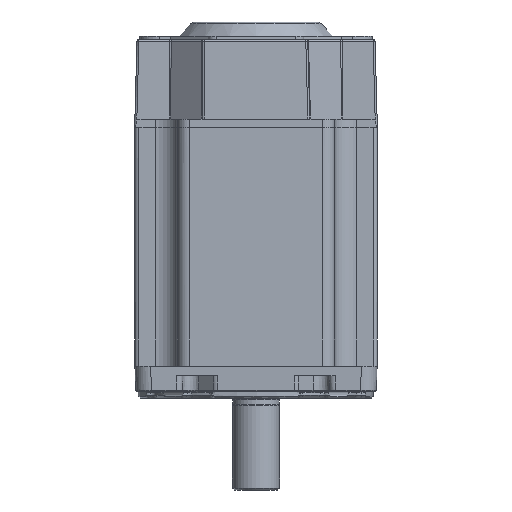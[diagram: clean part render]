
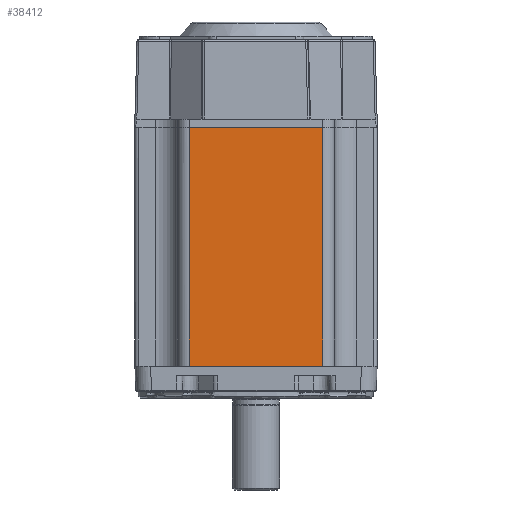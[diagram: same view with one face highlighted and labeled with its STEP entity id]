
A CAD part, front view. The second image highlights one B-rep face of the part: STEP entity #38412.
In plain terms, the highlighted planar face has unit normal (0, -1, 0).
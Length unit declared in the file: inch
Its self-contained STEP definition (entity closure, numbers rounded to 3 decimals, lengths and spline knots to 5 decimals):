
#463=CARTESIAN_POINT('',(1.058,-1.925,4.213));
#464=VERTEX_POINT('',#463);
#527=CARTESIAN_POINT('',(-1.058,-1.925,4.213));
#528=VERTEX_POINT('',#527);
#535=CARTESIAN_POINT('',(1.058,-1.925,4.213));
#536=DIRECTION('',(-1.0,0.0,0.0));
#537=VECTOR('',#536,2.116);
#538=LINE('',#535,#537);
#539=EDGE_CURVE('',#464,#528,#538,.T.);
#36597=CARTESIAN_POINT('',(1.058,-1.925,0.423));
#36598=VERTEX_POINT('',#36597);
#36599=CARTESIAN_POINT('',(1.058,-1.925,4.213));
#36600=DIRECTION('',(0.0,0.0,-1.0));
#36601=VECTOR('',#36600,3.79);
#36602=LINE('',#36599,#36601);
#36603=EDGE_CURVE('',#464,#36598,#36602,.T.);
#36730=CARTESIAN_POINT('',(-1.058,-1.925,0.423));
#36731=VERTEX_POINT('',#36730);
#36741=CARTESIAN_POINT('',(-1.058,-1.925,0.423));
#36742=DIRECTION('',(1.0,0.0,0.0));
#36743=VECTOR('',#36742,2.116);
#36744=LINE('',#36741,#36743);
#36745=EDGE_CURVE('',#36731,#36598,#36744,.T.);
#36764=CARTESIAN_POINT('',(-1.058,-1.925,0.423));
#36765=DIRECTION('',(0.0,0.0,1.0));
#36766=VECTOR('',#36765,3.79);
#36767=LINE('',#36764,#36766);
#36768=EDGE_CURVE('',#36731,#528,#36767,.T.);
#38401=CARTESIAN_POINT('',(1.245,-1.925,0.423));
#38402=DIRECTION('',(0.0,-1.0,0.0));
#38403=DIRECTION('',(0.0,0.0,-1.0));
#38404=AXIS2_PLACEMENT_3D('',#38401,#38402,#38403);
#38405=PLANE('',#38404);
#38406=ORIENTED_EDGE('',*,*,#539,.T.);
#38407=ORIENTED_EDGE('',*,*,#36768,.F.);
#38408=ORIENTED_EDGE('',*,*,#36745,.T.);
#38409=ORIENTED_EDGE('',*,*,#36603,.F.);
#38410=EDGE_LOOP('',(#38406,#38407,#38408,#38409));
#38411=FACE_OUTER_BOUND('',#38410,.T.);
#38412=ADVANCED_FACE('',(#38411),#38405,.T.);
